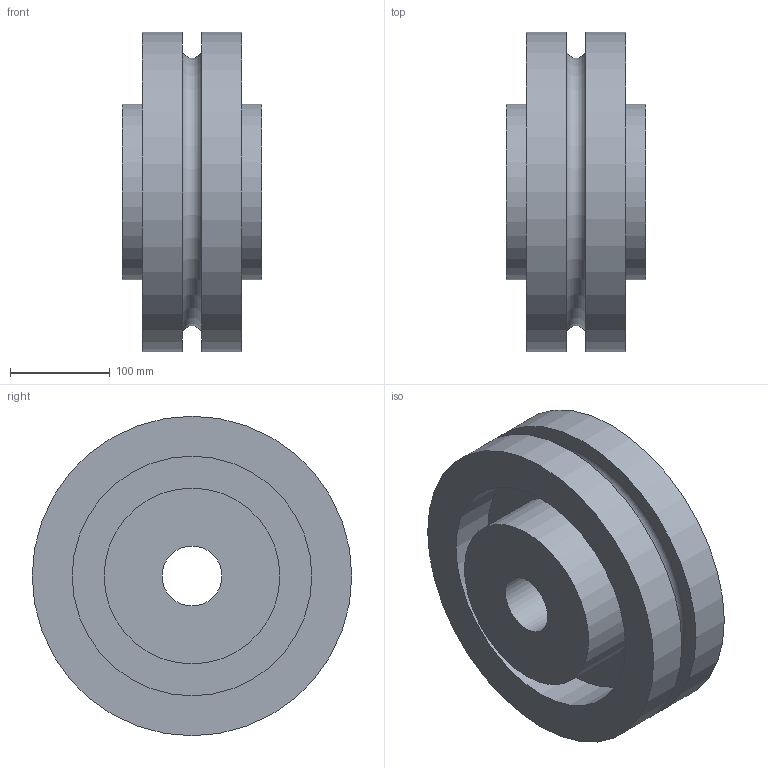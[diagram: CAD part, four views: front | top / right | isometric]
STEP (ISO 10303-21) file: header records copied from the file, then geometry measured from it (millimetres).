
FILE_DESCRIPTION(/* description */ (''),/* implementation_level */ '2;1');
FILE_NAME(/* name */ 'Pulley.step',/* time_stamp */ '2026-10-06T11:28:34+05:30',/* author */ (''),/* organization */ (''),/* preprocessor_version */ 'ST-DEVELOPER v20.2',/* originating_system */ 'Autodesk Translation Framework v15.15.0.0',/* authorisation */ '');
FILE_SCHEMA (('AUTOMOTIVE_DESIGN { 1 0 10303 214 3 1 1 }'));
Length unit declared in the file: millimetre
Products named in the file (1): 2026-10-06-11-28-14-984
Bounding box: 140 x 320 x 320 mm (x, y, z)
Volume: 6294288.9 mm3; surface area: 459476.1 mm2
Topology: 1 solids, 1 shells, 16 faces, 24 edges, 16 vertices
Faces by surface type: plane 8, cylinder 7, torus 1
Full cylindrical faces by diameter (mm): 60 x1, 176 x2, 240 x2, 320 x2
Entity records: 402 total; most frequent: DIRECTION 75, CARTESIAN_POINT 57, ORIENTED_EDGE 48, AXIS2_PLACEMENT_3D 34, EDGE_LOOP 24, EDGE_CURVE 24, CIRCLE 17, FACE_OUTER_BOUND 16
